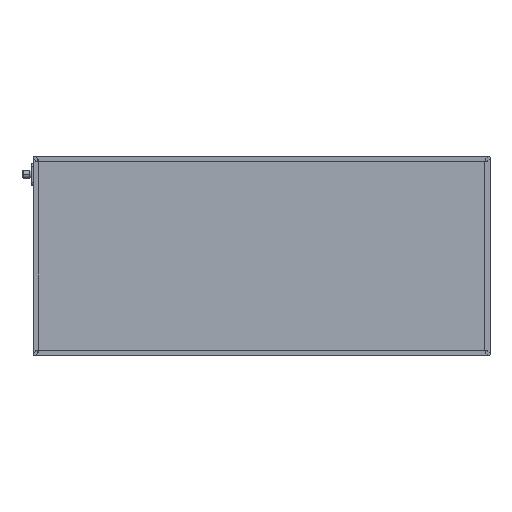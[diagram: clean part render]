
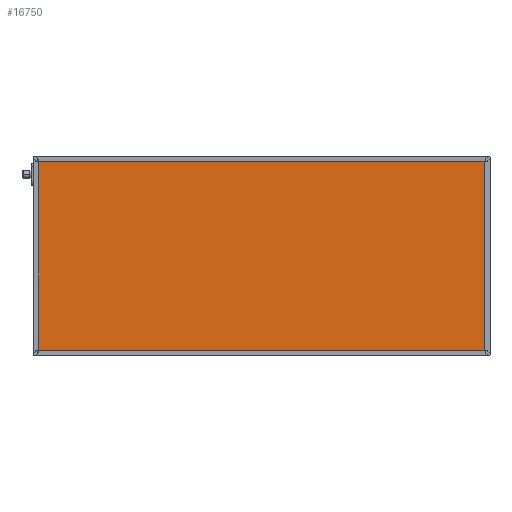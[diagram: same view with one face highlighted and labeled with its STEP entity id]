
A CAD part, top view. The second image highlights one B-rep face of the part: STEP entity #16750.
In plain terms, the highlighted planar face has unit normal (0, 0, 1).
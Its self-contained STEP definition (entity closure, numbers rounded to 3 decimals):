
#1106 = EDGE_CURVE ( 'NONE', #3780, #2480, #16839, .T. ) ;
#1814 = CARTESIAN_POINT ( 'NONE',  ( 4., 0., 41.85 ) ) ;
#2442 = EDGE_CURVE ( 'NONE', #8588, #3780, #10050, .T. ) ;
#2480 = VERTEX_POINT ( 'NONE', #7776 ) ;
#2489 = CARTESIAN_POINT ( 'NONE',  ( 0., 4., 41.85 ) ) ;
#2530 = VECTOR ( 'NONE', #11639, 1000. ) ;
#3415 = VECTOR ( 'NONE', #11326, 1000. ) ;
#3780 = VERTEX_POINT ( 'NONE', #10205 ) ;
#4962 = EDGE_CURVE ( 'NONE', #12995, #8588, #10345, .T. ) ;
#5731 = DIRECTION ( 'NONE',  ( 0., 0., -1. ) ) ;
#6106 = AXIS2_PLACEMENT_3D ( 'NONE', #12111, #5731, #8445 ) ;
#6777 = ORIENTED_EDGE ( 'NONE', *, *, #2442, .T. ) ;
#6801 = FACE_OUTER_BOUND ( 'NONE', #14619, .T. ) ;
#7178 = DIRECTION ( 'NONE',  ( -1., 0., 0. ) ) ;
#7776 = CARTESIAN_POINT ( 'NONE',  ( 4., 296., 41.85 ) ) ;
#7838 = CARTESIAN_POINT ( 'NONE',  ( 696., 4., 41.85 ) ) ;
#8445 = DIRECTION ( 'NONE',  ( -1., 0., 0. ) ) ;
#8456 = EDGE_CURVE ( 'NONE', #2480, #12995, #9848, .T. ) ;
#8588 = VERTEX_POINT ( 'NONE', #7838 ) ;
#9749 = CARTESIAN_POINT ( 'NONE',  ( 4., 4., 41.85 ) ) ;
#9848 = LINE ( 'NONE', #1814, #3415 ) ;
#10050 = LINE ( 'NONE', #11697, #13641 ) ;
#10205 = CARTESIAN_POINT ( 'NONE',  ( 696., 296., 41.85 ) ) ;
#10345 = LINE ( 'NONE', #2489, #2530 ) ;
#10980 = PLANE ( 'NONE',  #6106 ) ;
#11326 = DIRECTION ( 'NONE',  ( 0., -1., 0. ) ) ;
#11574 = ORIENTED_EDGE ( 'NONE', *, *, #8456, .T. ) ;
#11639 = DIRECTION ( 'NONE',  ( 1., 0., 0. ) ) ;
#11697 = CARTESIAN_POINT ( 'NONE',  ( 696., 0., 41.85 ) ) ;
#11987 = ORIENTED_EDGE ( 'NONE', *, *, #4962, .T. ) ;
#12111 = CARTESIAN_POINT ( 'NONE',  ( 0., 0., 41.85 ) ) ;
#12995 = VERTEX_POINT ( 'NONE', #9749 ) ;
#13641 = VECTOR ( 'NONE', #13957, 1000. ) ;
#13810 = ORIENTED_EDGE ( 'NONE', *, *, #1106, .T. ) ;
#13957 = DIRECTION ( 'NONE',  ( 0., 1., 0. ) ) ;
#14619 = EDGE_LOOP ( 'NONE', ( #6777, #13810, #11574, #11987 ) ) ;
#16661 = VECTOR ( 'NONE', #7178, 1000. ) ;
#16750 = ADVANCED_FACE ( 'NONE', ( #6801 ), #10980, .F. ) ;
#16758 = CARTESIAN_POINT ( 'NONE',  ( 0., 296., 41.85 ) ) ;
#16839 = LINE ( 'NONE', #16758, #16661 ) ;
